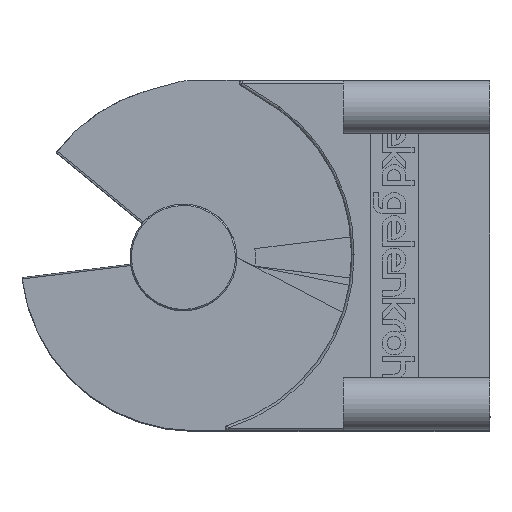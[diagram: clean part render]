
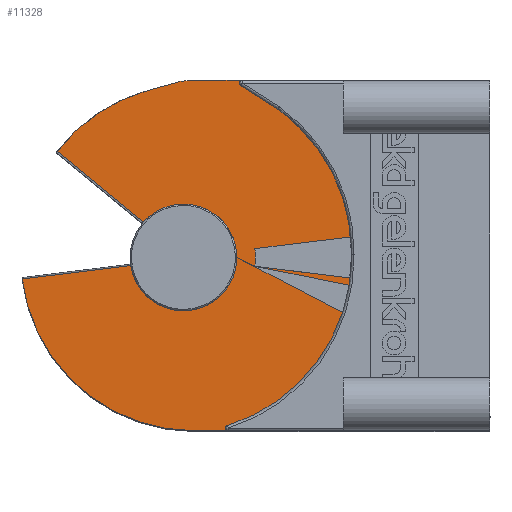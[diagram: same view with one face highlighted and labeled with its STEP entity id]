
A CAD part, top view. The second image highlights one B-rep face of the part: STEP entity #11328.
In plain terms, the highlighted planar face has unit normal (0, 0, -1).
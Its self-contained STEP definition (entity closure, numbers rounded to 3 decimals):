
#1785=CARTESIAN_POINT('',(105.249,139.468,201.028));
#1786=VERTEX_POINT('',#1785);
#1793=CARTESIAN_POINT('',(98.837,139.468,201.028));
#1794=VERTEX_POINT('',#1793);
#1795=CARTESIAN_POINT('',(105.249,139.468,201.028));
#1796=DIRECTION('',(-1.0,0.0,0.0));
#1797=VECTOR('',#1796,6.412);
#1798=LINE('',#1795,#1797);
#1799=EDGE_CURVE('',#1786,#1794,#1798,.T.);
#2007=CARTESIAN_POINT('',(98.217,205.168,201.028));
#2008=VERTEX_POINT('',#2007);
#2015=CARTESIAN_POINT('',(107.835,205.168,201.028));
#2016=VERTEX_POINT('',#2015);
#2017=CARTESIAN_POINT('',(98.217,205.168,201.028));
#2018=DIRECTION('',(1.0,0.0,0.0));
#2019=VECTOR('',#2018,9.618);
#2020=LINE('',#2017,#2019);
#2021=EDGE_CURVE('',#2008,#2016,#2020,.T.);
#9960=CARTESIAN_POINT('',(66.588,167.937,201.028));
#9961=VERTEX_POINT('',#9960);
#9962=CARTESIAN_POINT('',(98.837,171.968,201.028));
#9963=DIRECTION('',(0.0,0.0,-1.0));
#9964=DIRECTION('',(0.993,0.114,0.0));
#9965=AXIS2_PLACEMENT_3D('',#9962,#9963,#9964);
#9966=CIRCLE('',#9965,32.5);
#9967=EDGE_CURVE('',#1794,#9961,#9966,.T.);
#9987=CARTESIAN_POINT('',(86.954,170.438,201.028));
#9988=VERTEX_POINT('',#9987);
#9989=CARTESIAN_POINT('',(66.588,167.937,201.028));
#9990=DIRECTION('',(0.993,0.122,0.));
#9991=VECTOR('',#9990,20.52);
#9992=LINE('',#9989,#9991);
#9993=EDGE_CURVE('',#9961,#9988,#9992,.T.);
#10024=CARTESIAN_POINT('',(89.324,178.569,201.028));
#10025=VERTEX_POINT('',#10024);
#10026=CARTESIAN_POINT('',(96.837,171.968,201.028));
#10027=DIRECTION('',(0.0,0.0,-1.0));
#10028=DIRECTION('',(-1.0,0.0,0.0));
#10029=AXIS2_PLACEMENT_3D('',#10026,#10027,#10028);
#10030=CIRCLE('',#10029,10.0);
#10031=EDGE_CURVE('',#10025,#9988,#10030,.T.);
#10051=CARTESIAN_POINT('',(73.161,191.893,201.028));
#10052=VERTEX_POINT('',#10051);
#10053=CARTESIAN_POINT('',(89.324,178.569,201.028));
#10054=DIRECTION('',(-0.772,0.636,0.));
#10055=VECTOR('',#10054,20.948);
#10056=LINE('',#10053,#10055);
#10057=EDGE_CURVE('',#10025,#10052,#10056,.T.);
#10264=CARTESIAN_POINT('',(128.337,171.968,201.028));
#10265=VERTEX_POINT('',#10264);
#10272=CARTESIAN_POINT('',(105.101,140.446,201.028));
#10273=VERTEX_POINT('',#10272);
#10274=CARTESIAN_POINT('',(95.337,171.968,201.028));
#10275=DIRECTION('',(0.0,0.0,1.));
#10276=DIRECTION('',(0.296,-0.955,0.0));
#10277=AXIS2_PLACEMENT_3D('',#10274,#10275,#10276);
#10278=CIRCLE('',#10277,33.);
#10279=EDGE_CURVE('',#10273,#10265,#10278,.T.);
#10297=CARTESIAN_POINT('',(105.249,139.968,201.028));
#10298=DIRECTION('',(0.0,0.0,-1.));
#10299=DIRECTION('',(0.296,-0.955,0.0));
#10300=AXIS2_PLACEMENT_3D('',#10297,#10298,#10299);
#10301=CIRCLE('',#10300,0.5);
#10302=EDGE_CURVE('',#1786,#10273,#10301,.T.);
#11144=CARTESIAN_POINT('',(128.069,168.133,201.028));
#11145=VERTEX_POINT('',#11144);
#11152=CARTESIAN_POINT('',(93.723,172.455,201.028));
#11153=DIRECTION('',(0.0,0.0,1.));
#11154=DIRECTION('',(0.995,0.097,0.0));
#11155=AXIS2_PLACEMENT_3D('',#11152,#11153,#11154);
#11156=CIRCLE('',#11155,34.617);
#11157=EDGE_CURVE('',#11145,#10265,#11156,.T.);
#11167=CARTESIAN_POINT('',(128.337,172.942,201.028));
#11168=VERTEX_POINT('',#11167);
#11175=CARTESIAN_POINT('',(128.176,175.816,201.028));
#11176=VERTEX_POINT('',#11175);
#11177=CARTESIAN_POINT('',(93.723,172.455,201.028));
#11178=DIRECTION('',(0.0,0.0,1.));
#11179=DIRECTION('',(0.995,0.097,0.0));
#11180=AXIS2_PLACEMENT_3D('',#11177,#11178,#11179);
#11181=CIRCLE('',#11180,34.617);
#11182=EDGE_CURVE('',#11168,#11176,#11181,.T.);
#11201=CARTESIAN_POINT('',(110.236,173.614,201.028));
#11202=VERTEX_POINT('',#11201);
#11203=CARTESIAN_POINT('',(128.176,175.816,201.028));
#11204=DIRECTION('',(-0.993,-0.122,0.));
#11205=VECTOR('',#11204,18.075);
#11206=LINE('',#11203,#11205);
#11207=EDGE_CURVE('',#11176,#11202,#11206,.T.);
#11225=CARTESIAN_POINT('',(110.236,170.323,201.028));
#11226=VERTEX_POINT('',#11225);
#11227=CARTESIAN_POINT('',(96.837,171.968,201.028));
#11228=DIRECTION('',(0.0,0.0,-1.));
#11229=DIRECTION('',(-0.993,-0.122,0.0));
#11230=AXIS2_PLACEMENT_3D('',#11227,#11228,#11229);
#11231=CIRCLE('',#11230,13.5);
#11232=EDGE_CURVE('',#11202,#11226,#11231,.T.);
#11250=CARTESIAN_POINT('',(110.236,170.323,201.028));
#11251=DIRECTION('',(0.993,-0.122,0.));
#11252=VECTOR('',#11251,17.967);
#11253=LINE('',#11250,#11252);
#11254=EDGE_CURVE('',#11226,#11145,#11253,.T.);
#11260=CARTESIAN_POINT('',(97.447,172.309,201.028));
#11261=DIRECTION('',(0.0,0.0,1.0));
#11262=DIRECTION('',(1.0,0.0,0.0));
#11263=AXIS2_PLACEMENT_3D('',#11260,#11261,#11262);
#11264=PLANE('',#11263);
#11265=ORIENTED_EDGE('',*,*,#11182,.F.);
#11266=CARTESIAN_POINT('',(114.561,199.79,201.028));
#11267=VERTEX_POINT('',#11266);
#11268=CARTESIAN_POINT('',(95.337,172.968,201.028));
#11269=DIRECTION('',(0.0,0.0,1.0));
#11270=DIRECTION('',(1.0,0.0,0.0));
#11271=AXIS2_PLACEMENT_3D('',#11268,#11269,#11270);
#11272=CIRCLE('',#11271,33.);
#11273=EDGE_CURVE('',#11168,#11267,#11272,.T.);
#11274=ORIENTED_EDGE('',*,*,#11273,.T.);
#11275=CARTESIAN_POINT('',(107.566,204.247,201.028));
#11276=VERTEX_POINT('',#11275);
#11277=CARTESIAN_POINT('',(114.561,199.79,201.028));
#11278=DIRECTION('',(-0.843,0.537,0.));
#11279=VECTOR('',#11278,8.294);
#11280=LINE('',#11277,#11279);
#11281=EDGE_CURVE('',#11267,#11276,#11280,.T.);
#11282=ORIENTED_EDGE('',*,*,#11281,.T.);
#11283=CARTESIAN_POINT('',(107.835,204.668,201.028));
#11284=DIRECTION('',(0.0,0.0,-1.0));
#11285=DIRECTION('',(0.0,-1.0,0.0));
#11286=AXIS2_PLACEMENT_3D('',#11283,#11284,#11285);
#11287=CIRCLE('',#11286,0.5);
#11288=EDGE_CURVE('',#11276,#2016,#11287,.T.);
#11289=ORIENTED_EDGE('',*,*,#11288,.T.);
#11290=ORIENTED_EDGE('',*,*,#2021,.F.);
#11291=CARTESIAN_POINT('',(95.508,204.794,201.028));
#11292=VERTEX_POINT('',#11291);
#11293=CARTESIAN_POINT('',(98.217,195.168,201.028));
#11294=DIRECTION('',(0.0,0.0,-1.0));
#11295=DIRECTION('',(0.0,-1.0,0.0));
#11296=AXIS2_PLACEMENT_3D('',#11293,#11294,#11295);
#11297=CIRCLE('',#11296,10.0);
#11298=EDGE_CURVE('',#11292,#2008,#11297,.T.);
#11299=ORIENTED_EDGE('',*,*,#11298,.F.);
#11300=CARTESIAN_POINT('',(90.031,203.253,201.028));
#11301=VERTEX_POINT('',#11300);
#11302=CARTESIAN_POINT('',(90.031,203.253,201.028));
#11303=DIRECTION('',(0.963,0.271,0.0));
#11304=VECTOR('',#11303,5.69);
#11305=LINE('',#11302,#11304);
#11306=EDGE_CURVE('',#11301,#11292,#11305,.T.);
#11307=ORIENTED_EDGE('',*,*,#11306,.F.);
#11308=CARTESIAN_POINT('',(98.837,171.968,201.028));
#11309=DIRECTION('',(0.0,0.0,-1.));
#11310=DIRECTION('',(0.271,-0.963,0.0));
#11311=AXIS2_PLACEMENT_3D('',#11308,#11309,#11310);
#11312=CIRCLE('',#11311,32.5);
#11313=EDGE_CURVE('',#10052,#11301,#11312,.T.);
#11314=ORIENTED_EDGE('',*,*,#11313,.F.);
#11315=ORIENTED_EDGE('',*,*,#10057,.F.);
#11316=ORIENTED_EDGE('',*,*,#10031,.T.);
#11317=ORIENTED_EDGE('',*,*,#9993,.F.);
#11318=ORIENTED_EDGE('',*,*,#9967,.F.);
#11319=ORIENTED_EDGE('',*,*,#1799,.F.);
#11320=ORIENTED_EDGE('',*,*,#10302,.T.);
#11321=ORIENTED_EDGE('',*,*,#10279,.T.);
#11322=ORIENTED_EDGE('',*,*,#11157,.F.);
#11323=ORIENTED_EDGE('',*,*,#11254,.F.);
#11324=ORIENTED_EDGE('',*,*,#11232,.F.);
#11325=ORIENTED_EDGE('',*,*,#11207,.F.);
#11326=EDGE_LOOP('',(#11265,#11274,#11282,#11289,#11290,#11299,#11307,#11314,#11315,#11316,#11317,#11318,#11319,#11320,#11321,#11322,#11323,#11324,#11325));
#11327=FACE_OUTER_BOUND('',#11326,.T.);
#11328=ADVANCED_FACE('',(#11327),#11264,.F.);
